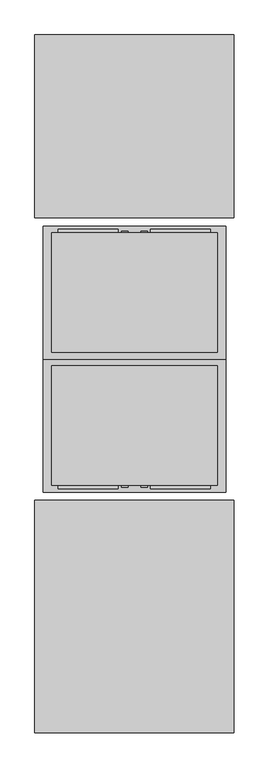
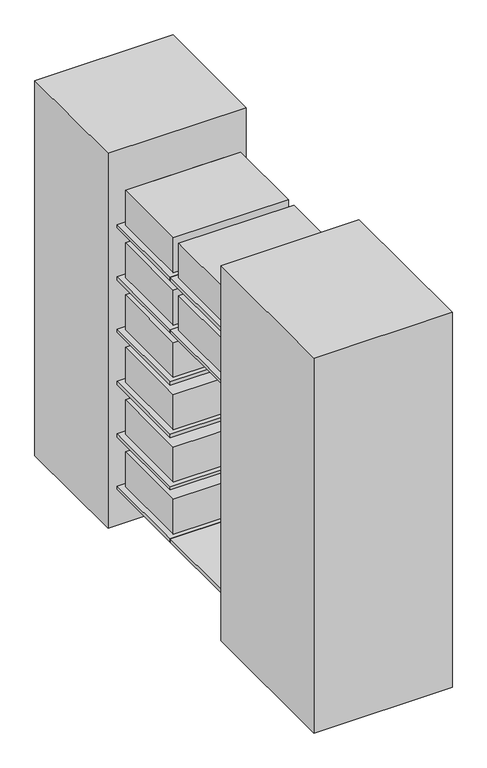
"""IFC4 building model written with IfcOpenShell, lengths in millimetres: furniture geometry, BIMHealth-Data_Acquisition_Cabinet_MRI-LOD2A-v1 : BIMHealth-Data_Acquisition_Cabinet_MRI-LOD2A-v1."""

from ifc_helpers import new_model, si_unit, point, frame, frame_2d, origin, origin_with_axes, place, context, project, spatial, polyline, circle_curve, trimmed, segment, composite_curve, outline, extrude, source, transform, mapped, element, save


def furniture_b9a21921(model_context):
    return source(origin(), model_context, "Body", "SweptSolid", [
        extrude(outline(polyline([(-300.0, 975.0), (300.0, 975.0), (300.0, 425.0), (-300.0, 425.0), (-300.0, 975.0)])), origin_with_axes(), (0.0, 0.0, 1.0), 1720.0),
        extrude(outline(polyline([(300.0, -425.0), (300.0, -1125.0), (-300.0, -1125.0), (-300.0, -425.0), (300.0, -425.0)])), origin_with_axes(), (0.0, 0.0, 1.0), 1720.0),
        extrude(outline(polyline([(275.0, 0.0), (-275.0, 0.0), (-275.0, 400.0), (275.0, 400.0), (275.0, 0.0)])), frame((0.0, 0.0, 185.0), z_axis=(0.0, 0.0, 1.0), x_axis=(1.0, 0.0, 0.0)), (0.0, 0.0, 1.0), 15.0),
        extrude(outline(composite_curve([segment(trimmed(circle_curve(frame_2d((1532.3398364, 29.2292543)), 10.0), [point((1532.3398364, 39.2292543))], [point((1532.3398364, 19.2292543))], False, "CARTESIAN"), True, "CONTINUOUS"), segment(trimmed(circle_curve(frame_2d((1532.3398364, 29.2292543)), 10.0), [point((1532.3398364, 19.2292543))], [point((1532.3398364, 39.2292543))], False, "CARTESIAN"), True, "CONTINUOUS")], self_intersect=False)), frame((0.0, 380.0, 0.0), z_axis=(0.0, 1.0, 0.0), x_axis=(0.0, 0.0, 1.0)), (0.0, 0.0, 1.0), 5.0),
        extrude(outline(composite_curve([segment(trimmed(circle_curve(frame_2d((1481.3182848, 29.2292543)), 10.0), [point((1481.3182848, 39.2292543))], [point((1481.3182848, 19.2292543))], False, "CARTESIAN"), True, "CONTINUOUS"), segment(trimmed(circle_curve(frame_2d((1481.3182848, 29.2292543)), 10.0), [point((1481.3182848, 19.2292543))], [point((1481.3182848, 39.2292543))], False, "CARTESIAN"), True, "CONTINUOUS")], self_intersect=False)), frame((0.0, 380.0, 0.0), z_axis=(0.0, 1.0, 0.0), x_axis=(0.0, 0.0, 1.0)), (0.0, 0.0, 1.0), 5.0),
        extrude(outline(composite_curve([segment(trimmed(circle_curve(frame_2d((1430.2967331, 29.2292543)), 10.0), [point((1430.2967331, 39.2292543))], [point((1430.2967331, 19.2292543))], False, "CARTESIAN"), True, "CONTINUOUS"), segment(trimmed(circle_curve(frame_2d((1430.2967331, 29.2292543)), 10.0), [point((1430.2967331, 19.2292543))], [point((1430.2967331, 39.2292543))], False, "CARTESIAN"), True, "CONTINUOUS")], self_intersect=False)), frame((0.0, 380.0, 0.0), z_axis=(0.0, 1.0, 0.0), x_axis=(0.0, 0.0, 1.0)), (0.0, 0.0, 1.0), 5.0),
        extrude(outline(composite_curve([segment(trimmed(circle_curve(frame_2d((1532.3398364, -29.2292543)), 10.0), [point((1532.3398364, -39.2292543))], [point((1532.3398364, -19.2292543))], False, "CARTESIAN"), True, "CONTINUOUS"), segment(trimmed(circle_curve(frame_2d((1532.3398364, -29.2292543)), 10.0), [point((1532.3398364, -19.2292543))], [point((1532.3398364, -39.2292543))], False, "CARTESIAN"), True, "CONTINUOUS")], self_intersect=False)), frame((0.0, 380.0, 0.0), z_axis=(0.0, 1.0, 0.0), x_axis=(0.0, 0.0, 1.0)), (0.0, 0.0, 1.0), 5.0),
        extrude(outline(composite_curve([segment(trimmed(circle_curve(frame_2d((1481.3182848, -29.2292543)), 10.0), [point((1481.3182848, -39.2292543))], [point((1481.3182848, -19.2292543))], False, "CARTESIAN"), True, "CONTINUOUS"), segment(trimmed(circle_curve(frame_2d((1481.3182848, -29.2292543)), 10.0), [point((1481.3182848, -19.2292543))], [point((1481.3182848, -39.2292543))], False, "CARTESIAN"), True, "CONTINUOUS")], self_intersect=False)), frame((0.0, 380.0, 0.0), z_axis=(0.0, 1.0, 0.0), x_axis=(0.0, 0.0, 1.0)), (0.0, 0.0, 1.0), 5.0),
        extrude(outline(composite_curve([segment(trimmed(circle_curve(frame_2d((1430.2967331, -29.2292543)), 10.0), [point((1430.2967331, -39.2292543))], [point((1430.2967331, -19.2292543))], False, "CARTESIAN"), True, "CONTINUOUS"), segment(trimmed(circle_curve(frame_2d((1430.2967331, -29.2292543)), 10.0), [point((1430.2967331, -19.2292543))], [point((1430.2967331, -39.2292543))], False, "CARTESIAN"), True, "CONTINUOUS")], self_intersect=False)), frame((0.0, 380.0, 0.0), z_axis=(0.0, 1.0, 0.0), x_axis=(0.0, 0.0, 1.0)), (0.0, 0.0, 1.0), 5.0),
        extrude(outline(polyline([(-229.2292543, 390.0), (-49.2292543, 390.0), (-49.2292543, 380.0), (-229.2292543, 380.0), (-229.2292543, 390.0)])), frame((0.0, 0.0, 1512.3398364), z_axis=(0.0, 0.0, 1.0), x_axis=(1.0, 0.0, 0.0)), (0.0, 0.0, 1.0), 40.0),
        extrude(outline(polyline([(-229.2292543, 390.0), (-49.2292543, 390.0), (-49.2292543, 380.0), (-229.2292543, 380.0), (-229.2292543, 390.0)])), frame((0.0, 0.0, 1461.3182848), z_axis=(0.0, 0.0, 1.0), x_axis=(1.0, 0.0, 0.0)), (0.0, 0.0, 1.0), 40.0),
        extrude(outline(polyline([(-229.2292543, 390.0), (-49.2292543, 390.0), (-49.2292543, 380.0), (-229.2292543, 380.0), (-229.2292543, 390.0)])), frame((0.0, 0.0, 1410.2967331), z_axis=(0.0, 0.0, 1.0), x_axis=(1.0, 0.0, 0.0)), (0.0, 0.0, 1.0), 40.0),
        extrude(outline(polyline([(49.2292543, 390.0), (229.2292543, 390.0), (229.2292543, 380.0), (49.2292543, 380.0), (49.2292543, 390.0)])), frame((0.0, 0.0, 1512.3398364), z_axis=(0.0, 0.0, 1.0), x_axis=(1.0, 0.0, 0.0)), (0.0, 0.0, 1.0), 40.0),
        extrude(outline(polyline([(49.2292543, 390.0), (229.2292543, 390.0), (229.2292543, 380.0), (49.2292543, 380.0), (49.2292543, 390.0)])), frame((0.0, 0.0, 1461.3182848), z_axis=(0.0, 0.0, 1.0), x_axis=(1.0, 0.0, 0.0)), (0.0, 0.0, 1.0), 40.0),
        extrude(outline(polyline([(49.2292543, 390.0), (229.2292543, 390.0), (229.2292543, 380.0), (49.2292543, 380.0), (49.2292543, 390.0)])), frame((0.0, 0.0, 1410.2967331), z_axis=(0.0, 0.0, 1.0), x_axis=(1.0, 0.0, 0.0)), (0.0, 0.0, 1.0), 40.0),
        extrude(outline(polyline([(250.0, 380.0), (250.0, 20.0), (-250.0, 20.0), (-250.0, 380.0), (250.0, 380.0)])), frame((0.0, 0.0, 1400.0), z_axis=(0.0, 0.0, 1.0), x_axis=(1.0, 0.0, 0.0)), (0.0, 0.0, 1.0), 160.0),
        extrude(outline(polyline([(275.0, 0.0), (-275.0, 0.0), (-275.0, 400.0), (275.0, 400.0), (275.0, 0.0)])), frame((0.0, 0.0, 1385.0), z_axis=(0.0, 0.0, 1.0), x_axis=(1.0, 0.0, 0.0)), (0.0, 0.0, 1.0), 15.0),
        extrude(outline(composite_curve([segment(trimmed(circle_curve(frame_2d((1292.3398364, 29.2292543)), 10.0), [point((1292.3398364, 39.2292543))], [point((1292.3398364, 19.2292543))], False, "CARTESIAN"), True, "CONTINUOUS"), segment(trimmed(circle_curve(frame_2d((1292.3398364, 29.2292543)), 10.0), [point((1292.3398364, 19.2292543))], [point((1292.3398364, 39.2292543))], False, "CARTESIAN"), True, "CONTINUOUS")], self_intersect=False)), frame((0.0, 380.0, 0.0), z_axis=(0.0, 1.0, 0.0), x_axis=(0.0, 0.0, 1.0)), (0.0, 0.0, 1.0), 5.0),
        extrude(outline(composite_curve([segment(trimmed(circle_curve(frame_2d((1241.3182848, 29.2292543)), 10.0), [point((1241.3182848, 39.2292543))], [point((1241.3182848, 19.2292543))], False, "CARTESIAN"), True, "CONTINUOUS"), segment(trimmed(circle_curve(frame_2d((1241.3182848, 29.2292543)), 10.0), [point((1241.3182848, 19.2292543))], [point((1241.3182848, 39.2292543))], False, "CARTESIAN"), True, "CONTINUOUS")], self_intersect=False)), frame((0.0, 380.0, 0.0), z_axis=(0.0, 1.0, 0.0), x_axis=(0.0, 0.0, 1.0)), (0.0, 0.0, 1.0), 5.0),
        extrude(outline(composite_curve([segment(trimmed(circle_curve(frame_2d((1190.2967331, 29.2292543)), 10.0), [point((1190.2967331, 39.2292543))], [point((1190.2967331, 19.2292543))], False, "CARTESIAN"), True, "CONTINUOUS"), segment(trimmed(circle_curve(frame_2d((1190.2967331, 29.2292543)), 10.0), [point((1190.2967331, 19.2292543))], [point((1190.2967331, 39.2292543))], False, "CARTESIAN"), True, "CONTINUOUS")], self_intersect=False)), frame((0.0, 380.0, 0.0), z_axis=(0.0, 1.0, 0.0), x_axis=(0.0, 0.0, 1.0)), (0.0, 0.0, 1.0), 5.0),
        extrude(outline(composite_curve([segment(trimmed(circle_curve(frame_2d((1292.3398364, -29.2292543)), 10.0), [point((1292.3398364, -39.2292543))], [point((1292.3398364, -19.2292543))], False, "CARTESIAN"), True, "CONTINUOUS"), segment(trimmed(circle_curve(frame_2d((1292.3398364, -29.2292543)), 10.0), [point((1292.3398364, -19.2292543))], [point((1292.3398364, -39.2292543))], False, "CARTESIAN"), True, "CONTINUOUS")], self_intersect=False)), frame((0.0, 380.0, 0.0), z_axis=(0.0, 1.0, 0.0), x_axis=(0.0, 0.0, 1.0)), (0.0, 0.0, 1.0), 5.0),
        extrude(outline(composite_curve([segment(trimmed(circle_curve(frame_2d((1241.3182848, -29.2292543)), 10.0), [point((1241.3182848, -39.2292543))], [point((1241.3182848, -19.2292543))], False, "CARTESIAN"), True, "CONTINUOUS"), segment(trimmed(circle_curve(frame_2d((1241.3182848, -29.2292543)), 10.0), [point((1241.3182848, -19.2292543))], [point((1241.3182848, -39.2292543))], False, "CARTESIAN"), True, "CONTINUOUS")], self_intersect=False)), frame((0.0, 380.0, 0.0), z_axis=(0.0, 1.0, 0.0), x_axis=(0.0, 0.0, 1.0)), (0.0, 0.0, 1.0), 5.0),
        extrude(outline(composite_curve([segment(trimmed(circle_curve(frame_2d((1190.2967331, -29.2292543)), 10.0), [point((1190.2967331, -39.2292543))], [point((1190.2967331, -19.2292543))], False, "CARTESIAN"), True, "CONTINUOUS"), segment(trimmed(circle_curve(frame_2d((1190.2967331, -29.2292543)), 10.0), [point((1190.2967331, -19.2292543))], [point((1190.2967331, -39.2292543))], False, "CARTESIAN"), True, "CONTINUOUS")], self_intersect=False)), frame((0.0, 380.0, 0.0), z_axis=(0.0, 1.0, 0.0), x_axis=(0.0, 0.0, 1.0)), (0.0, 0.0, 1.0), 5.0),
        extrude(outline(polyline([(-229.2292543, 390.0), (-49.2292543, 390.0), (-49.2292543, 380.0), (-229.2292543, 380.0), (-229.2292543, 390.0)])), frame((0.0, 0.0, 1272.3398364), z_axis=(0.0, 0.0, 1.0), x_axis=(1.0, 0.0, 0.0)), (0.0, 0.0, 1.0), 40.0),
        extrude(outline(polyline([(-229.2292543, 390.0), (-49.2292543, 390.0), (-49.2292543, 380.0), (-229.2292543, 380.0), (-229.2292543, 390.0)])), frame((0.0, 0.0, 1221.3182848), z_axis=(0.0, 0.0, 1.0), x_axis=(1.0, 0.0, 0.0)), (0.0, 0.0, 1.0), 40.0),
        extrude(outline(polyline([(-229.2292543, 390.0), (-49.2292543, 390.0), (-49.2292543, 380.0), (-229.2292543, 380.0), (-229.2292543, 390.0)])), frame((0.0, 0.0, 1170.2967331), z_axis=(0.0, 0.0, 1.0), x_axis=(1.0, 0.0, 0.0)), (0.0, 0.0, 1.0), 40.0),
        extrude(outline(polyline([(49.2292543, 390.0), (229.2292543, 390.0), (229.2292543, 380.0), (49.2292543, 380.0), (49.2292543, 390.0)])), frame((0.0, 0.0, 1272.3398364), z_axis=(0.0, 0.0, 1.0), x_axis=(1.0, 0.0, 0.0)), (0.0, 0.0, 1.0), 40.0),
        extrude(outline(polyline([(49.2292543, 390.0), (229.2292543, 390.0), (229.2292543, 380.0), (49.2292543, 380.0), (49.2292543, 390.0)])), frame((0.0, 0.0, 1221.3182848), z_axis=(0.0, 0.0, 1.0), x_axis=(1.0, 0.0, 0.0)), (0.0, 0.0, 1.0), 40.0),
        extrude(outline(polyline([(49.2292543, 390.0), (229.2292543, 390.0), (229.2292543, 380.0), (49.2292543, 380.0), (49.2292543, 390.0)])), frame((0.0, 0.0, 1170.2967331), z_axis=(0.0, 0.0, 1.0), x_axis=(1.0, 0.0, 0.0)), (0.0, 0.0, 1.0), 40.0),
        extrude(outline(polyline([(250.0, 380.0), (250.0, 20.0), (-250.0, 20.0), (-250.0, 380.0), (250.0, 380.0)])), frame((0.0, 0.0, 1160.0), z_axis=(0.0, 0.0, 1.0), x_axis=(1.0, 0.0, 0.0)), (0.0, 0.0, 1.0), 160.0),
        extrude(outline(polyline([(275.0, 0.0), (-275.0, 0.0), (-275.0, 400.0), (275.0, 400.0), (275.0, 0.0)])), frame((0.0, 0.0, 1145.0), z_axis=(0.0, 0.0, 1.0), x_axis=(1.0, 0.0, 0.0)), (0.0, 0.0, 1.0), 15.0),
        extrude(outline(composite_curve([segment(trimmed(circle_curve(frame_2d((1052.3398364, 29.2292543)), 10.0), [point((1052.3398364, 39.2292543))], [point((1052.3398364, 19.2292543))], False, "CARTESIAN"), True, "CONTINUOUS"), segment(trimmed(circle_curve(frame_2d((1052.3398364, 29.2292543)), 10.0), [point((1052.3398364, 19.2292543))], [point((1052.3398364, 39.2292543))], False, "CARTESIAN"), True, "CONTINUOUS")], self_intersect=False)), frame((0.0, 380.0, 0.0), z_axis=(0.0, 1.0, 0.0), x_axis=(0.0, 0.0, 1.0)), (0.0, 0.0, 1.0), 5.0),
        extrude(outline(composite_curve([segment(trimmed(circle_curve(frame_2d((1001.3182848, 29.2292543)), 10.0), [point((1001.3182848, 39.2292543))], [point((1001.3182848, 19.2292543))], False, "CARTESIAN"), True, "CONTINUOUS"), segment(trimmed(circle_curve(frame_2d((1001.3182848, 29.2292543)), 10.0), [point((1001.3182848, 19.2292543))], [point((1001.3182848, 39.2292543))], False, "CARTESIAN"), True, "CONTINUOUS")], self_intersect=False)), frame((0.0, 380.0, 0.0), z_axis=(0.0, 1.0, 0.0), x_axis=(0.0, 0.0, 1.0)), (0.0, 0.0, 1.0), 5.0),
        extrude(outline(composite_curve([segment(trimmed(circle_curve(frame_2d((950.2967331, 29.2292543)), 10.0), [point((950.2967331, 39.2292543))], [point((950.2967331, 19.2292543))], False, "CARTESIAN"), True, "CONTINUOUS"), segment(trimmed(circle_curve(frame_2d((950.2967331, 29.2292543)), 10.0), [point((950.2967331, 19.2292543))], [point((950.2967331, 39.2292543))], False, "CARTESIAN"), True, "CONTINUOUS")], self_intersect=False)), frame((0.0, 380.0, 0.0), z_axis=(0.0, 1.0, 0.0), x_axis=(0.0, 0.0, 1.0)), (0.0, 0.0, 1.0), 5.0),
        extrude(outline(composite_curve([segment(trimmed(circle_curve(frame_2d((1052.3398364, -29.2292543)), 10.0), [point((1052.3398364, -39.2292543))], [point((1052.3398364, -19.2292543))], False, "CARTESIAN"), True, "CONTINUOUS"), segment(trimmed(circle_curve(frame_2d((1052.3398364, -29.2292543)), 10.0), [point((1052.3398364, -19.2292543))], [point((1052.3398364, -39.2292543))], False, "CARTESIAN"), True, "CONTINUOUS")], self_intersect=False)), frame((0.0, 380.0, 0.0), z_axis=(0.0, 1.0, 0.0), x_axis=(0.0, 0.0, 1.0)), (0.0, 0.0, 1.0), 5.0),
        extrude(outline(composite_curve([segment(trimmed(circle_curve(frame_2d((1001.3182848, -29.2292543)), 10.0), [point((1001.3182848, -39.2292543))], [point((1001.3182848, -19.2292543))], False, "CARTESIAN"), True, "CONTINUOUS"), segment(trimmed(circle_curve(frame_2d((1001.3182848, -29.2292543)), 10.0), [point((1001.3182848, -19.2292543))], [point((1001.3182848, -39.2292543))], False, "CARTESIAN"), True, "CONTINUOUS")], self_intersect=False)), frame((0.0, 380.0, 0.0), z_axis=(0.0, 1.0, 0.0), x_axis=(0.0, 0.0, 1.0)), (0.0, 0.0, 1.0), 5.0),
        extrude(outline(composite_curve([segment(trimmed(circle_curve(frame_2d((950.2967331, -29.2292543)), 10.0), [point((950.2967331, -39.2292543))], [point((950.2967331, -19.2292543))], False, "CARTESIAN"), True, "CONTINUOUS"), segment(trimmed(circle_curve(frame_2d((950.2967331, -29.2292543)), 10.0), [point((950.2967331, -19.2292543))], [point((950.2967331, -39.2292543))], False, "CARTESIAN"), True, "CONTINUOUS")], self_intersect=False)), frame((0.0, 380.0, 0.0), z_axis=(0.0, 1.0, 0.0), x_axis=(0.0, 0.0, 1.0)), (0.0, 0.0, 1.0), 5.0),
        extrude(outline(polyline([(-229.2292543, 390.0), (-49.2292543, 390.0), (-49.2292543, 380.0), (-229.2292543, 380.0), (-229.2292543, 390.0)])), frame((0.0, 0.0, 1032.3398364), z_axis=(0.0, 0.0, 1.0), x_axis=(1.0, 0.0, 0.0)), (0.0, 0.0, 1.0), 40.0),
        extrude(outline(polyline([(-229.2292543, 390.0), (-49.2292543, 390.0), (-49.2292543, 380.0), (-229.2292543, 380.0), (-229.2292543, 390.0)])), frame((0.0, 0.0, 981.3182848), z_axis=(0.0, 0.0, 1.0), x_axis=(1.0, 0.0, 0.0)), (0.0, 0.0, 1.0), 40.0),
        extrude(outline(polyline([(-229.2292543, 390.0), (-49.2292543, 390.0), (-49.2292543, 380.0), (-229.2292543, 380.0), (-229.2292543, 390.0)])), frame((0.0, 0.0, 930.2967331), z_axis=(0.0, 0.0, 1.0), x_axis=(1.0, 0.0, 0.0)), (0.0, 0.0, 1.0), 40.0),
        extrude(outline(polyline([(49.2292543, 390.0), (229.2292543, 390.0), (229.2292543, 380.0), (49.2292543, 380.0), (49.2292543, 390.0)])), frame((0.0, 0.0, 1032.3398364), z_axis=(0.0, 0.0, 1.0), x_axis=(1.0, 0.0, 0.0)), (0.0, 0.0, 1.0), 40.0),
        extrude(outline(polyline([(49.2292543, 390.0), (229.2292543, 390.0), (229.2292543, 380.0), (49.2292543, 380.0), (49.2292543, 390.0)])), frame((0.0, 0.0, 981.3182848), z_axis=(0.0, 0.0, 1.0), x_axis=(1.0, 0.0, 0.0)), (0.0, 0.0, 1.0), 40.0),
        extrude(outline(polyline([(49.2292543, 390.0), (229.2292543, 390.0), (229.2292543, 380.0), (49.2292543, 380.0), (49.2292543, 390.0)])), frame((0.0, 0.0, 930.2967331), z_axis=(0.0, 0.0, 1.0), x_axis=(1.0, 0.0, 0.0)), (0.0, 0.0, 1.0), 40.0),
        extrude(outline(polyline([(250.0, 380.0), (250.0, 20.0), (-250.0, 20.0), (-250.0, 380.0), (250.0, 380.0)])), frame((0.0, 0.0, 920.0), z_axis=(0.0, 0.0, 1.0), x_axis=(1.0, 0.0, 0.0)), (0.0, 0.0, 1.0), 160.0),
        extrude(outline(polyline([(275.0, 0.0), (-275.0, 0.0), (-275.0, 400.0), (275.0, 400.0), (275.0, 0.0)])), frame((0.0, 0.0, 905.0), z_axis=(0.0, 0.0, 1.0), x_axis=(1.0, 0.0, 0.0)), (0.0, 0.0, 1.0), 15.0),
        extrude(outline(composite_curve([segment(trimmed(circle_curve(frame_2d((812.3398364, 29.2292543)), 10.0), [point((812.3398364, 39.2292543))], [point((812.3398364, 19.2292543))], False, "CARTESIAN"), True, "CONTINUOUS"), segment(trimmed(circle_curve(frame_2d((812.3398364, 29.2292543)), 10.0), [point((812.3398364, 19.2292543))], [point((812.3398364, 39.2292543))], False, "CARTESIAN"), True, "CONTINUOUS")], self_intersect=False)), frame((0.0, 380.0, 0.0), z_axis=(0.0, 1.0, 0.0), x_axis=(0.0, 0.0, 1.0)), (0.0, 0.0, 1.0), 5.0),
        extrude(outline(composite_curve([segment(trimmed(circle_curve(frame_2d((761.3182848, 29.2292543)), 10.0), [point((761.3182848, 39.2292543))], [point((761.3182848, 19.2292543))], False, "CARTESIAN"), True, "CONTINUOUS"), segment(trimmed(circle_curve(frame_2d((761.3182848, 29.2292543)), 10.0), [point((761.3182848, 19.2292543))], [point((761.3182848, 39.2292543))], False, "CARTESIAN"), True, "CONTINUOUS")], self_intersect=False)), frame((0.0, 380.0, 0.0), z_axis=(0.0, 1.0, 0.0), x_axis=(0.0, 0.0, 1.0)), (0.0, 0.0, 1.0), 5.0),
        extrude(outline(composite_curve([segment(trimmed(circle_curve(frame_2d((710.2967331, 29.2292543)), 10.0), [point((710.2967331, 39.2292543))], [point((710.2967331, 19.2292543))], False, "CARTESIAN"), True, "CONTINUOUS"), segment(trimmed(circle_curve(frame_2d((710.2967331, 29.2292543)), 10.0), [point((710.2967331, 19.2292543))], [point((710.2967331, 39.2292543))], False, "CARTESIAN"), True, "CONTINUOUS")], self_intersect=False)), frame((0.0, 380.0, 0.0), z_axis=(0.0, 1.0, 0.0), x_axis=(0.0, 0.0, 1.0)), (0.0, 0.0, 1.0), 5.0),
        extrude(outline(composite_curve([segment(trimmed(circle_curve(frame_2d((812.3398364, -29.2292543)), 10.0), [point((812.3398364, -39.2292543))], [point((812.3398364, -19.2292543))], False, "CARTESIAN"), True, "CONTINUOUS"), segment(trimmed(circle_curve(frame_2d((812.3398364, -29.2292543)), 10.0), [point((812.3398364, -19.2292543))], [point((812.3398364, -39.2292543))], False, "CARTESIAN"), True, "CONTINUOUS")], self_intersect=False)), frame((0.0, 380.0, 0.0), z_axis=(0.0, 1.0, 0.0), x_axis=(0.0, 0.0, 1.0)), (0.0, 0.0, 1.0), 5.0),
        extrude(outline(composite_curve([segment(trimmed(circle_curve(frame_2d((761.3182848, -29.2292543)), 10.0), [point((761.3182848, -39.2292543))], [point((761.3182848, -19.2292543))], False, "CARTESIAN"), True, "CONTINUOUS"), segment(trimmed(circle_curve(frame_2d((761.3182848, -29.2292543)), 10.0), [point((761.3182848, -19.2292543))], [point((761.3182848, -39.2292543))], False, "CARTESIAN"), True, "CONTINUOUS")], self_intersect=False)), frame((0.0, 380.0, 0.0), z_axis=(0.0, 1.0, 0.0), x_axis=(0.0, 0.0, 1.0)), (0.0, 0.0, 1.0), 5.0),
        extrude(outline(composite_curve([segment(trimmed(circle_curve(frame_2d((710.2967331, -29.2292543)), 10.0), [point((710.2967331, -39.2292543))], [point((710.2967331, -19.2292543))], False, "CARTESIAN"), True, "CONTINUOUS"), segment(trimmed(circle_curve(frame_2d((710.2967331, -29.2292543)), 10.0), [point((710.2967331, -19.2292543))], [point((710.2967331, -39.2292543))], False, "CARTESIAN"), True, "CONTINUOUS")], self_intersect=False)), frame((0.0, 380.0, 0.0), z_axis=(0.0, 1.0, 0.0), x_axis=(0.0, 0.0, 1.0)), (0.0, 0.0, 1.0), 5.0),
        extrude(outline(polyline([(-229.2292543, 390.0), (-49.2292543, 390.0), (-49.2292543, 380.0), (-229.2292543, 380.0), (-229.2292543, 390.0)])), frame((0.0, 0.0, 792.3398364), z_axis=(0.0, 0.0, 1.0), x_axis=(1.0, 0.0, 0.0)), (0.0, 0.0, 1.0), 40.0),
        extrude(outline(polyline([(-229.2292543, 390.0), (-49.2292543, 390.0), (-49.2292543, 380.0), (-229.2292543, 380.0), (-229.2292543, 390.0)])), frame((0.0, 0.0, 741.3182848), z_axis=(0.0, 0.0, 1.0), x_axis=(1.0, 0.0, 0.0)), (0.0, 0.0, 1.0), 40.0),
        extrude(outline(polyline([(-229.2292543, 390.0), (-49.2292543, 390.0), (-49.2292543, 380.0), (-229.2292543, 380.0), (-229.2292543, 390.0)])), frame((0.0, 0.0, 690.2967331), z_axis=(0.0, 0.0, 1.0), x_axis=(1.0, 0.0, 0.0)), (0.0, 0.0, 1.0), 40.0),
        extrude(outline(polyline([(49.2292543, 390.0), (229.2292543, 390.0), (229.2292543, 380.0), (49.2292543, 380.0), (49.2292543, 390.0)])), frame((0.0, 0.0, 792.3398364), z_axis=(0.0, 0.0, 1.0), x_axis=(1.0, 0.0, 0.0)), (0.0, 0.0, 1.0), 40.0),
        extrude(outline(polyline([(49.2292543, 390.0), (229.2292543, 390.0), (229.2292543, 380.0), (49.2292543, 380.0), (49.2292543, 390.0)])), frame((0.0, 0.0, 741.3182848), z_axis=(0.0, 0.0, 1.0), x_axis=(1.0, 0.0, 0.0)), (0.0, 0.0, 1.0), 40.0),
        extrude(outline(polyline([(49.2292543, 390.0), (229.2292543, 390.0), (229.2292543, 380.0), (49.2292543, 380.0), (49.2292543, 390.0)])), frame((0.0, 0.0, 690.2967331), z_axis=(0.0, 0.0, 1.0), x_axis=(1.0, 0.0, 0.0)), (0.0, 0.0, 1.0), 40.0),
        extrude(outline(polyline([(250.0, 380.0), (250.0, 20.0), (-250.0, 20.0), (-250.0, 380.0), (250.0, 380.0)])), frame((0.0, 0.0, 680.0), z_axis=(0.0, 0.0, 1.0), x_axis=(1.0, 0.0, 0.0)), (0.0, 0.0, 1.0), 160.0),
        extrude(outline(polyline([(275.0, 0.0), (-275.0, 0.0), (-275.0, 400.0), (275.0, 400.0), (275.0, 0.0)])), frame((0.0, 0.0, 665.0), z_axis=(0.0, 0.0, 1.0), x_axis=(1.0, 0.0, 0.0)), (0.0, 0.0, 1.0), 15.0),
        extrude(outline(composite_curve([segment(trimmed(circle_curve(frame_2d((332.3398364, 29.2292543)), 10.0), [point((332.3398364, 39.2292543))], [point((332.3398364, 19.2292543))], False, "CARTESIAN"), True, "CONTINUOUS"), segment(trimmed(circle_curve(frame_2d((332.3398364, 29.2292543)), 10.0), [point((332.3398364, 19.2292543))], [point((332.3398364, 39.2292543))], False, "CARTESIAN"), True, "CONTINUOUS")], self_intersect=False)), frame((0.0, 380.0, 0.0), z_axis=(0.0, 1.0, 0.0), x_axis=(0.0, 0.0, 1.0)), (0.0, 0.0, 1.0), 5.0),
        extrude(outline(composite_curve([segment(trimmed(circle_curve(frame_2d((281.3182848, 29.2292543)), 10.0), [point((281.3182848, 39.2292543))], [point((281.3182848, 19.2292543))], False, "CARTESIAN"), True, "CONTINUOUS"), segment(trimmed(circle_curve(frame_2d((281.3182848, 29.2292543)), 10.0), [point((281.3182848, 19.2292543))], [point((281.3182848, 39.2292543))], False, "CARTESIAN"), True, "CONTINUOUS")], self_intersect=False)), frame((0.0, 380.0, 0.0), z_axis=(0.0, 1.0, 0.0), x_axis=(0.0, 0.0, 1.0)), (0.0, 0.0, 1.0), 5.0),
        extrude(outline(composite_curve([segment(trimmed(circle_curve(frame_2d((230.2967331, 29.2292543)), 10.0), [point((230.2967331, 39.2292543))], [point((230.2967331, 19.2292543))], False, "CARTESIAN"), True, "CONTINUOUS"), segment(trimmed(circle_curve(frame_2d((230.2967331, 29.2292543)), 10.0), [point((230.2967331, 19.2292543))], [point((230.2967331, 39.2292543))], False, "CARTESIAN"), True, "CONTINUOUS")], self_intersect=False)), frame((0.0, 380.0, 0.0), z_axis=(0.0, 1.0, 0.0), x_axis=(0.0, 0.0, 1.0)), (0.0, 0.0, 1.0), 5.0),
        extrude(outline(composite_curve([segment(trimmed(circle_curve(frame_2d((332.3398364, -29.2292543)), 10.0), [point((332.3398364, -39.2292543))], [point((332.3398364, -19.2292543))], False, "CARTESIAN"), True, "CONTINUOUS"), segment(trimmed(circle_curve(frame_2d((332.3398364, -29.2292543)), 10.0), [point((332.3398364, -19.2292543))], [point((332.3398364, -39.2292543))], False, "CARTESIAN"), True, "CONTINUOUS")], self_intersect=False)), frame((0.0, 380.0, 0.0), z_axis=(0.0, 1.0, 0.0), x_axis=(0.0, 0.0, 1.0)), (0.0, 0.0, 1.0), 5.0),
        extrude(outline(composite_curve([segment(trimmed(circle_curve(frame_2d((281.3182848, -29.2292543)), 10.0), [point((281.3182848, -39.2292543))], [point((281.3182848, -19.2292543))], False, "CARTESIAN"), True, "CONTINUOUS"), segment(trimmed(circle_curve(frame_2d((281.3182848, -29.2292543)), 10.0), [point((281.3182848, -19.2292543))], [point((281.3182848, -39.2292543))], False, "CARTESIAN"), True, "CONTINUOUS")], self_intersect=False)), frame((0.0, 380.0, 0.0), z_axis=(0.0, 1.0, 0.0), x_axis=(0.0, 0.0, 1.0)), (0.0, 0.0, 1.0), 5.0),
        extrude(outline(composite_curve([segment(trimmed(circle_curve(frame_2d((230.2967331, -29.2292543)), 10.0), [point((230.2967331, -39.2292543))], [point((230.2967331, -19.2292543))], False, "CARTESIAN"), True, "CONTINUOUS"), segment(trimmed(circle_curve(frame_2d((230.2967331, -29.2292543)), 10.0), [point((230.2967331, -19.2292543))], [point((230.2967331, -39.2292543))], False, "CARTESIAN"), True, "CONTINUOUS")], self_intersect=False)), frame((0.0, 380.0, 0.0), z_axis=(0.0, 1.0, 0.0), x_axis=(0.0, 0.0, 1.0)), (0.0, 0.0, 1.0), 5.0),
        extrude(outline(polyline([(-229.2292543, 390.0), (-49.2292543, 390.0), (-49.2292543, 380.0), (-229.2292543, 380.0), (-229.2292543, 390.0)])), frame((0.0, 0.0, 312.3398364), z_axis=(0.0, 0.0, 1.0), x_axis=(1.0, 0.0, 0.0)), (0.0, 0.0, 1.0), 40.0),
        extrude(outline(polyline([(-229.2292543, 390.0), (-49.2292543, 390.0), (-49.2292543, 380.0), (-229.2292543, 380.0), (-229.2292543, 390.0)])), frame((0.0, 0.0, 261.3182848), z_axis=(0.0, 0.0, 1.0), x_axis=(1.0, 0.0, 0.0)), (0.0, 0.0, 1.0), 40.0),
        extrude(outline(polyline([(-229.2292543, 390.0), (-49.2292543, 390.0), (-49.2292543, 380.0), (-229.2292543, 380.0), (-229.2292543, 390.0)])), frame((0.0, 0.0, 210.2967331), z_axis=(0.0, 0.0, 1.0), x_axis=(1.0, 0.0, 0.0)), (0.0, 0.0, 1.0), 40.0),
        extrude(outline(polyline([(49.2292543, 390.0), (229.2292543, 390.0), (229.2292543, 380.0), (49.2292543, 380.0), (49.2292543, 390.0)])), frame((0.0, 0.0, 312.3398364), z_axis=(0.0, 0.0, 1.0), x_axis=(1.0, 0.0, 0.0)), (0.0, 0.0, 1.0), 40.0),
        extrude(outline(polyline([(49.2292543, 390.0), (229.2292543, 390.0), (229.2292543, 380.0), (49.2292543, 380.0), (49.2292543, 390.0)])), frame((0.0, 0.0, 261.3182848), z_axis=(0.0, 0.0, 1.0), x_axis=(1.0, 0.0, 0.0)), (0.0, 0.0, 1.0), 40.0),
        extrude(outline(polyline([(49.2292543, 390.0), (229.2292543, 390.0), (229.2292543, 380.0), (49.2292543, 380.0), (49.2292543, 390.0)])), frame((0.0, 0.0, 210.2967331), z_axis=(0.0, 0.0, 1.0), x_axis=(1.0, 0.0, 0.0)), (0.0, 0.0, 1.0), 40.0),
        extrude(outline(polyline([(250.0, 380.0), (250.0, 20.0), (-250.0, 20.0), (-250.0, 380.0), (250.0, 380.0)])), frame((0.0, 0.0, 200.0), z_axis=(0.0, 0.0, 1.0), x_axis=(1.0, 0.0, 0.0)), (0.0, 0.0, 1.0), 160.0),
        extrude(outline(composite_curve([segment(trimmed(circle_curve(frame_2d((572.3398364, 29.2292543)), 10.0), [point((572.3398364, 39.2292543))], [point((572.3398364, 19.2292543))], False, "CARTESIAN"), True, "CONTINUOUS"), segment(trimmed(circle_curve(frame_2d((572.3398364, 29.2292543)), 10.0), [point((572.3398364, 19.2292543))], [point((572.3398364, 39.2292543))], False, "CARTESIAN"), True, "CONTINUOUS")], self_intersect=False)), frame((0.0, 380.0, 0.0), z_axis=(0.0, 1.0, 0.0), x_axis=(0.0, 0.0, 1.0)), (0.0, 0.0, 1.0), 5.0),
        extrude(outline(composite_curve([segment(trimmed(circle_curve(frame_2d((521.3182848, 29.2292543)), 10.0), [point((521.3182848, 39.2292543))], [point((521.3182848, 19.2292543))], False, "CARTESIAN"), True, "CONTINUOUS"), segment(trimmed(circle_curve(frame_2d((521.3182848, 29.2292543)), 10.0), [point((521.3182848, 19.2292543))], [point((521.3182848, 39.2292543))], False, "CARTESIAN"), True, "CONTINUOUS")], self_intersect=False)), frame((0.0, 380.0, 0.0), z_axis=(0.0, 1.0, 0.0), x_axis=(0.0, 0.0, 1.0)), (0.0, 0.0, 1.0), 5.0),
        extrude(outline(composite_curve([segment(trimmed(circle_curve(frame_2d((470.2967331, 29.2292543)), 10.0), [point((470.2967331, 39.2292543))], [point((470.2967331, 19.2292543))], False, "CARTESIAN"), True, "CONTINUOUS"), segment(trimmed(circle_curve(frame_2d((470.2967331, 29.2292543)), 10.0), [point((470.2967331, 19.2292543))], [point((470.2967331, 39.2292543))], False, "CARTESIAN"), True, "CONTINUOUS")], self_intersect=False)), frame((0.0, 380.0, 0.0), z_axis=(0.0, 1.0, 0.0), x_axis=(0.0, 0.0, 1.0)), (0.0, 0.0, 1.0), 5.0),
        extrude(outline(composite_curve([segment(trimmed(circle_curve(frame_2d((572.3398364, -29.2292543)), 10.0), [point((572.3398364, -39.2292543))], [point((572.3398364, -19.2292543))], False, "CARTESIAN"), True, "CONTINUOUS"), segment(trimmed(circle_curve(frame_2d((572.3398364, -29.2292543)), 10.0), [point((572.3398364, -19.2292543))], [point((572.3398364, -39.2292543))], False, "CARTESIAN"), True, "CONTINUOUS")], self_intersect=False)), frame((0.0, 380.0, 0.0), z_axis=(0.0, 1.0, 0.0), x_axis=(0.0, 0.0, 1.0)), (0.0, 0.0, 1.0), 5.0),
        extrude(outline(composite_curve([segment(trimmed(circle_curve(frame_2d((521.3182848, -29.2292543)), 10.0), [point((521.3182848, -39.2292543))], [point((521.3182848, -19.2292543))], False, "CARTESIAN"), True, "CONTINUOUS"), segment(trimmed(circle_curve(frame_2d((521.3182848, -29.2292543)), 10.0), [point((521.3182848, -19.2292543))], [point((521.3182848, -39.2292543))], False, "CARTESIAN"), True, "CONTINUOUS")], self_intersect=False)), frame((0.0, 380.0, 0.0), z_axis=(0.0, 1.0, 0.0), x_axis=(0.0, 0.0, 1.0)), (0.0, 0.0, 1.0), 5.0),
        extrude(outline(composite_curve([segment(trimmed(circle_curve(frame_2d((470.2967331, -29.2292543)), 10.0), [point((470.2967331, -39.2292543))], [point((470.2967331, -19.2292543))], False, "CARTESIAN"), True, "CONTINUOUS"), segment(trimmed(circle_curve(frame_2d((470.2967331, -29.2292543)), 10.0), [point((470.2967331, -19.2292543))], [point((470.2967331, -39.2292543))], False, "CARTESIAN"), True, "CONTINUOUS")], self_intersect=False)), frame((0.0, 380.0, 0.0), z_axis=(0.0, 1.0, 0.0), x_axis=(0.0, 0.0, 1.0)), (0.0, 0.0, 1.0), 5.0),
        extrude(outline(polyline([(-229.2292543, 390.0), (-49.2292543, 390.0), (-49.2292543, 380.0), (-229.2292543, 380.0), (-229.2292543, 390.0)])), frame((0.0, 0.0, 552.3398364), z_axis=(0.0, 0.0, 1.0), x_axis=(1.0, 0.0, 0.0)), (0.0, 0.0, 1.0), 40.0),
        extrude(outline(polyline([(-229.2292543, 390.0), (-49.2292543, 390.0), (-49.2292543, 380.0), (-229.2292543, 380.0), (-229.2292543, 390.0)])), frame((0.0, 0.0, 501.3182848), z_axis=(0.0, 0.0, 1.0), x_axis=(1.0, 0.0, 0.0)), (0.0, 0.0, 1.0), 40.0),
        extrude(outline(polyline([(-229.2292543, 390.0), (-49.2292543, 390.0), (-49.2292543, 380.0), (-229.2292543, 380.0), (-229.2292543, 390.0)])), frame((0.0, 0.0, 450.2967331), z_axis=(0.0, 0.0, 1.0), x_axis=(1.0, 0.0, 0.0)), (0.0, 0.0, 1.0), 40.0),
        extrude(outline(polyline([(49.2292543, 390.0), (229.2292543, 390.0), (229.2292543, 380.0), (49.2292543, 380.0), (49.2292543, 390.0)])), frame((0.0, 0.0, 552.3398364), z_axis=(0.0, 0.0, 1.0), x_axis=(1.0, 0.0, 0.0)), (0.0, 0.0, 1.0), 40.0),
        extrude(outline(polyline([(49.2292543, 390.0), (229.2292543, 390.0), (229.2292543, 380.0), (49.2292543, 380.0), (49.2292543, 390.0)])), frame((0.0, 0.0, 501.3182848), z_axis=(0.0, 0.0, 1.0), x_axis=(1.0, 0.0, 0.0)), (0.0, 0.0, 1.0), 40.0),
        extrude(outline(polyline([(49.2292543, 390.0), (229.2292543, 390.0), (229.2292543, 380.0), (49.2292543, 380.0), (49.2292543, 390.0)])), frame((0.0, 0.0, 450.2967331), z_axis=(0.0, 0.0, 1.0), x_axis=(1.0, 0.0, 0.0)), (0.0, 0.0, 1.0), 40.0),
        extrude(outline(polyline([(250.0, 380.0), (250.0, 20.0), (-250.0, 20.0), (-250.0, 380.0), (250.0, 380.0)])), frame((0.0, 0.0, 440.0), z_axis=(0.0, 0.0, 1.0), x_axis=(1.0, 0.0, 0.0)), (0.0, 0.0, 1.0), 160.0),
        extrude(outline(polyline([(275.0, 0.0), (-275.0, 0.0), (-275.0, 400.0), (275.0, 400.0), (275.0, 0.0)])), frame((0.0, 0.0, 425.0), z_axis=(0.0, 0.0, 1.0), x_axis=(1.0, 0.0, 0.0)), (0.0, 0.0, 1.0), 15.0),
        extrude(outline(polyline([(275.0, 0.0), (275.0, -400.0), (-275.0, -400.0), (-275.0, 0.0), (275.0, 0.0)])), frame((0.0, 0.0, 185.0), z_axis=(0.0, 0.0, 1.0), x_axis=(1.0, 0.0, 0.0)), (0.0, 0.0, 1.0), 15.0),
        extrude(outline(composite_curve([segment(trimmed(circle_curve(frame_2d((1532.3398364, 29.2292543)), 10.0), [point((1532.3398364, 39.2292543))], [point((1532.3398364, 19.2292543))], False, "CARTESIAN"), True, "CONTINUOUS"), segment(trimmed(circle_curve(frame_2d((1532.3398364, 29.2292543)), 10.0), [point((1532.3398364, 19.2292543))], [point((1532.3398364, 39.2292543))], False, "CARTESIAN"), True, "CONTINUOUS")], self_intersect=False)), frame((0.0, -385.0, 0.0), z_axis=(0.0, 1.0, 0.0), x_axis=(0.0, 0.0, 1.0)), (0.0, 0.0, 1.0), 5.0),
        extrude(outline(composite_curve([segment(trimmed(circle_curve(frame_2d((1481.3182848, 29.2292543)), 10.0), [point((1481.3182848, 39.2292543))], [point((1481.3182848, 19.2292543))], False, "CARTESIAN"), True, "CONTINUOUS"), segment(trimmed(circle_curve(frame_2d((1481.3182848, 29.2292543)), 10.0), [point((1481.3182848, 19.2292543))], [point((1481.3182848, 39.2292543))], False, "CARTESIAN"), True, "CONTINUOUS")], self_intersect=False)), frame((0.0, -385.0, 0.0), z_axis=(0.0, 1.0, 0.0), x_axis=(0.0, 0.0, 1.0)), (0.0, 0.0, 1.0), 5.0),
        extrude(outline(composite_curve([segment(trimmed(circle_curve(frame_2d((1430.2967331, 29.2292543)), 10.0), [point((1430.2967331, 39.2292543))], [point((1430.2967331, 19.2292543))], False, "CARTESIAN"), True, "CONTINUOUS"), segment(trimmed(circle_curve(frame_2d((1430.2967331, 29.2292543)), 10.0), [point((1430.2967331, 19.2292543))], [point((1430.2967331, 39.2292543))], False, "CARTESIAN"), True, "CONTINUOUS")], self_intersect=False)), frame((0.0, -385.0, 0.0), z_axis=(0.0, 1.0, 0.0), x_axis=(0.0, 0.0, 1.0)), (0.0, 0.0, 1.0), 5.0),
        extrude(outline(composite_curve([segment(trimmed(circle_curve(frame_2d((1532.3398364, -29.2292543)), 10.0), [point((1532.3398364, -39.2292543))], [point((1532.3398364, -19.2292543))], False, "CARTESIAN"), True, "CONTINUOUS"), segment(trimmed(circle_curve(frame_2d((1532.3398364, -29.2292543)), 10.0), [point((1532.3398364, -19.2292543))], [point((1532.3398364, -39.2292543))], False, "CARTESIAN"), True, "CONTINUOUS")], self_intersect=False)), frame((0.0, -385.0, 0.0), z_axis=(0.0, 1.0, 0.0), x_axis=(0.0, 0.0, 1.0)), (0.0, 0.0, 1.0), 5.0),
        extrude(outline(composite_curve([segment(trimmed(circle_curve(frame_2d((1481.3182848, -29.2292543)), 10.0), [point((1481.3182848, -39.2292543))], [point((1481.3182848, -19.2292543))], False, "CARTESIAN"), True, "CONTINUOUS"), segment(trimmed(circle_curve(frame_2d((1481.3182848, -29.2292543)), 10.0), [point((1481.3182848, -19.2292543))], [point((1481.3182848, -39.2292543))], False, "CARTESIAN"), True, "CONTINUOUS")], self_intersect=False)), frame((0.0, -385.0, 0.0), z_axis=(0.0, 1.0, 0.0), x_axis=(0.0, 0.0, 1.0)), (0.0, 0.0, 1.0), 5.0),
        extrude(outline(composite_curve([segment(trimmed(circle_curve(frame_2d((1430.2967331, -29.2292543)), 10.0), [point((1430.2967331, -39.2292543))], [point((1430.2967331, -19.2292543))], False, "CARTESIAN"), True, "CONTINUOUS"), segment(trimmed(circle_curve(frame_2d((1430.2967331, -29.2292543)), 10.0), [point((1430.2967331, -19.2292543))], [point((1430.2967331, -39.2292543))], False, "CARTESIAN"), True, "CONTINUOUS")], self_intersect=False)), frame((0.0, -385.0, 0.0), z_axis=(0.0, 1.0, 0.0), x_axis=(0.0, 0.0, 1.0)), (0.0, 0.0, 1.0), 5.0),
        extrude(outline(polyline([(-49.2292543, -390.0), (-229.2292543, -390.0), (-229.2292543, -380.0), (-49.2292543, -380.0), (-49.2292543, -390.0)])), frame((0.0, 0.0, 1512.3398364), z_axis=(0.0, 0.0, 1.0), x_axis=(1.0, 0.0, 0.0)), (0.0, 0.0, 1.0), 40.0),
        extrude(outline(polyline([(-49.2292543, -390.0), (-229.2292543, -390.0), (-229.2292543, -380.0), (-49.2292543, -380.0), (-49.2292543, -390.0)])), frame((0.0, 0.0, 1461.3182848), z_axis=(0.0, 0.0, 1.0), x_axis=(1.0, 0.0, 0.0)), (0.0, 0.0, 1.0), 40.0),
        extrude(outline(polyline([(-49.2292543, -390.0), (-229.2292543, -390.0), (-229.2292543, -380.0), (-49.2292543, -380.0), (-49.2292543, -390.0)])), frame((0.0, 0.0, 1410.2967331), z_axis=(0.0, 0.0, 1.0), x_axis=(1.0, 0.0, 0.0)), (0.0, 0.0, 1.0), 40.0),
        extrude(outline(polyline([(229.2292543, -390.0), (49.2292543, -390.0), (49.2292543, -380.0), (229.2292543, -380.0), (229.2292543, -390.0)])), frame((0.0, 0.0, 1512.3398364), z_axis=(0.0, 0.0, 1.0), x_axis=(1.0, 0.0, 0.0)), (0.0, 0.0, 1.0), 40.0),
        extrude(outline(polyline([(229.2292543, -390.0), (49.2292543, -390.0), (49.2292543, -380.0), (229.2292543, -380.0), (229.2292543, -390.0)])), frame((0.0, 0.0, 1461.3182848), z_axis=(0.0, 0.0, 1.0), x_axis=(1.0, 0.0, 0.0)), (0.0, 0.0, 1.0), 40.0),
        extrude(outline(polyline([(229.2292543, -390.0), (49.2292543, -390.0), (49.2292543, -380.0), (229.2292543, -380.0), (229.2292543, -390.0)])), frame((0.0, 0.0, 1410.2967331), z_axis=(0.0, 0.0, 1.0), x_axis=(1.0, 0.0, 0.0)), (0.0, 0.0, 1.0), 40.0),
        extrude(outline(polyline([(250.0, -20.0), (250.0, -380.0), (-250.0, -380.0), (-250.0, -20.0), (250.0, -20.0)])), frame((0.0, 0.0, 1400.0), z_axis=(0.0, 0.0, 1.0), x_axis=(1.0, 0.0, 0.0)), (0.0, 0.0, 1.0), 160.0),
        extrude(outline(polyline([(275.0, 0.0), (275.0, -400.0), (-275.0, -400.0), (-275.0, 0.0), (275.0, 0.0)])), frame((0.0, 0.0, 1385.0), z_axis=(0.0, 0.0, 1.0), x_axis=(1.0, 0.0, 0.0)), (0.0, 0.0, 1.0), 15.0),
        extrude(outline(composite_curve([segment(trimmed(circle_curve(frame_2d((1292.3398364, 29.2292543)), 10.0), [point((1292.3398364, 39.2292543))], [point((1292.3398364, 19.2292543))], False, "CARTESIAN"), True, "CONTINUOUS"), segment(trimmed(circle_curve(frame_2d((1292.3398364, 29.2292543)), 10.0), [point((1292.3398364, 19.2292543))], [point((1292.3398364, 39.2292543))], False, "CARTESIAN"), True, "CONTINUOUS")], self_intersect=False)), frame((0.0, -385.0, 0.0), z_axis=(0.0, 1.0, 0.0), x_axis=(0.0, 0.0, 1.0)), (0.0, 0.0, 1.0), 5.0),
        extrude(outline(composite_curve([segment(trimmed(circle_curve(frame_2d((1241.3182848, 29.2292543)), 10.0), [point((1241.3182848, 39.2292543))], [point((1241.3182848, 19.2292543))], False, "CARTESIAN"), True, "CONTINUOUS"), segment(trimmed(circle_curve(frame_2d((1241.3182848, 29.2292543)), 10.0), [point((1241.3182848, 19.2292543))], [point((1241.3182848, 39.2292543))], False, "CARTESIAN"), True, "CONTINUOUS")], self_intersect=False)), frame((0.0, -385.0, 0.0), z_axis=(0.0, 1.0, 0.0), x_axis=(0.0, 0.0, 1.0)), (0.0, 0.0, 1.0), 5.0),
        extrude(outline(composite_curve([segment(trimmed(circle_curve(frame_2d((1190.2967331, 29.2292543)), 10.0), [point((1190.2967331, 39.2292543))], [point((1190.2967331, 19.2292543))], False, "CARTESIAN"), True, "CONTINUOUS"), segment(trimmed(circle_curve(frame_2d((1190.2967331, 29.2292543)), 10.0), [point((1190.2967331, 19.2292543))], [point((1190.2967331, 39.2292543))], False, "CARTESIAN"), True, "CONTINUOUS")], self_intersect=False)), frame((0.0, -385.0, 0.0), z_axis=(0.0, 1.0, 0.0), x_axis=(0.0, 0.0, 1.0)), (0.0, 0.0, 1.0), 5.0),
        extrude(outline(composite_curve([segment(trimmed(circle_curve(frame_2d((1292.3398364, -29.2292543)), 10.0), [point((1292.3398364, -39.2292543))], [point((1292.3398364, -19.2292543))], False, "CARTESIAN"), True, "CONTINUOUS"), segment(trimmed(circle_curve(frame_2d((1292.3398364, -29.2292543)), 10.0), [point((1292.3398364, -19.2292543))], [point((1292.3398364, -39.2292543))], False, "CARTESIAN"), True, "CONTINUOUS")], self_intersect=False)), frame((0.0, -385.0, 0.0), z_axis=(0.0, 1.0, 0.0), x_axis=(0.0, 0.0, 1.0)), (0.0, 0.0, 1.0), 5.0),
        extrude(outline(composite_curve([segment(trimmed(circle_curve(frame_2d((1241.3182848, -29.2292543)), 10.0), [point((1241.3182848, -39.2292543))], [point((1241.3182848, -19.2292543))], False, "CARTESIAN"), True, "CONTINUOUS"), segment(trimmed(circle_curve(frame_2d((1241.3182848, -29.2292543)), 10.0), [point((1241.3182848, -19.2292543))], [point((1241.3182848, -39.2292543))], False, "CARTESIAN"), True, "CONTINUOUS")], self_intersect=False)), frame((0.0, -385.0, 0.0), z_axis=(0.0, 1.0, 0.0), x_axis=(0.0, 0.0, 1.0)), (0.0, 0.0, 1.0), 5.0),
        extrude(outline(composite_curve([segment(trimmed(circle_curve(frame_2d((1190.2967331, -29.2292543)), 10.0), [point((1190.2967331, -39.2292543))], [point((1190.2967331, -19.2292543))], False, "CARTESIAN"), True, "CONTINUOUS"), segment(trimmed(circle_curve(frame_2d((1190.2967331, -29.2292543)), 10.0), [point((1190.2967331, -19.2292543))], [point((1190.2967331, -39.2292543))], False, "CARTESIAN"), True, "CONTINUOUS")], self_intersect=False)), frame((0.0, -385.0, 0.0), z_axis=(0.0, 1.0, 0.0), x_axis=(0.0, 0.0, 1.0)), (0.0, 0.0, 1.0), 5.0),
        extrude(outline(polyline([(-49.2292543, -390.0), (-229.2292543, -390.0), (-229.2292543, -380.0), (-49.2292543, -380.0), (-49.2292543, -390.0)])), frame((0.0, 0.0, 1272.3398364), z_axis=(0.0, 0.0, 1.0), x_axis=(1.0, 0.0, 0.0)), (0.0, 0.0, 1.0), 40.0),
        extrude(outline(polyline([(-49.2292543, -390.0), (-229.2292543, -390.0), (-229.2292543, -380.0), (-49.2292543, -380.0), (-49.2292543, -390.0)])), frame((0.0, 0.0, 1221.3182848), z_axis=(0.0, 0.0, 1.0), x_axis=(1.0, 0.0, 0.0)), (0.0, 0.0, 1.0), 40.0),
        extrude(outline(polyline([(-49.2292543, -390.0), (-229.2292543, -390.0), (-229.2292543, -380.0), (-49.2292543, -380.0), (-49.2292543, -390.0)])), frame((0.0, 0.0, 1170.2967331), z_axis=(0.0, 0.0, 1.0), x_axis=(1.0, 0.0, 0.0)), (0.0, 0.0, 1.0), 40.0),
        extrude(outline(polyline([(229.2292543, -390.0), (49.2292543, -390.0), (49.2292543, -380.0), (229.2292543, -380.0), (229.2292543, -390.0)])), frame((0.0, 0.0, 1272.3398364), z_axis=(0.0, 0.0, 1.0), x_axis=(1.0, 0.0, 0.0)), (0.0, 0.0, 1.0), 40.0),
        extrude(outline(polyline([(229.2292543, -390.0), (49.2292543, -390.0), (49.2292543, -380.0), (229.2292543, -380.0), (229.2292543, -390.0)])), frame((0.0, 0.0, 1221.3182848), z_axis=(0.0, 0.0, 1.0), x_axis=(1.0, 0.0, 0.0)), (0.0, 0.0, 1.0), 40.0),
        extrude(outline(polyline([(229.2292543, -390.0), (49.2292543, -390.0), (49.2292543, -380.0), (229.2292543, -380.0), (229.2292543, -390.0)])), frame((0.0, 0.0, 1170.2967331), z_axis=(0.0, 0.0, 1.0), x_axis=(1.0, 0.0, 0.0)), (0.0, 0.0, 1.0), 40.0),
        extrude(outline(polyline([(250.0, -20.0), (250.0, -380.0), (-250.0, -380.0), (-250.0, -20.0), (250.0, -20.0)])), frame((0.0, 0.0, 1160.0), z_axis=(0.0, 0.0, 1.0), x_axis=(1.0, 0.0, 0.0)), (0.0, 0.0, 1.0), 160.0),
        extrude(outline(polyline([(275.0, 0.0), (275.0, -400.0), (-275.0, -400.0), (-275.0, 0.0), (275.0, 0.0)])), frame((0.0, 0.0, 1145.0), z_axis=(0.0, 0.0, 1.0), x_axis=(1.0, 0.0, 0.0)), (0.0, 0.0, 1.0), 15.0),
        extrude(outline(composite_curve([segment(trimmed(circle_curve(frame_2d((1052.3398364, 29.2292543)), 10.0), [point((1052.3398364, 39.2292543))], [point((1052.3398364, 19.2292543))], False, "CARTESIAN"), True, "CONTINUOUS"), segment(trimmed(circle_curve(frame_2d((1052.3398364, 29.2292543)), 10.0), [point((1052.3398364, 19.2292543))], [point((1052.3398364, 39.2292543))], False, "CARTESIAN"), True, "CONTINUOUS")], self_intersect=False)), frame((0.0, -385.0, 0.0), z_axis=(0.0, 1.0, 0.0), x_axis=(0.0, 0.0, 1.0)), (0.0, 0.0, 1.0), 5.0),
        extrude(outline(composite_curve([segment(trimmed(circle_curve(frame_2d((1001.3182848, 29.2292543)), 10.0), [point((1001.3182848, 39.2292543))], [point((1001.3182848, 19.2292543))], False, "CARTESIAN"), True, "CONTINUOUS"), segment(trimmed(circle_curve(frame_2d((1001.3182848, 29.2292543)), 10.0), [point((1001.3182848, 19.2292543))], [point((1001.3182848, 39.2292543))], False, "CARTESIAN"), True, "CONTINUOUS")], self_intersect=False)), frame((0.0, -385.0, 0.0), z_axis=(0.0, 1.0, 0.0), x_axis=(0.0, 0.0, 1.0)), (0.0, 0.0, 1.0), 5.0),
        extrude(outline(composite_curve([segment(trimmed(circle_curve(frame_2d((950.2967331, 29.2292543)), 10.0), [point((950.2967331, 39.2292543))], [point((950.2967331, 19.2292543))], False, "CARTESIAN"), True, "CONTINUOUS"), segment(trimmed(circle_curve(frame_2d((950.2967331, 29.2292543)), 10.0), [point((950.2967331, 19.2292543))], [point((950.2967331, 39.2292543))], False, "CARTESIAN"), True, "CONTINUOUS")], self_intersect=False)), frame((0.0, -385.0, 0.0), z_axis=(0.0, 1.0, 0.0), x_axis=(0.0, 0.0, 1.0)), (0.0, 0.0, 1.0), 5.0),
    ])


if __name__ == "__main__":
    model = new_model("IFC4")
    model_context = context("Model", 3, world=origin())
    ifc_project = project(units=[si_unit("LENGTHUNIT", "METRE", prefix="MILLI")], contexts=[model_context])
    site = spatial("IfcSite", under=ifc_project)
    building = spatial("IfcBuilding", under=site)
    placement = place(None, origin())
    furniture_shape = furniture_b9a21921(model_context)
    element("IfcFurniture", 1, ObjectType="BIMHealth-Data_Acquisition_Cabinet_MRI-LOD2A-v1 : BIMHealth-Data_Acquisition_Cabinet_MRI-LOD2A-v1", at=placement, inside=building, context=model_context, shape_type="MappedRepresentation", body=[
        mapped(furniture_shape, transform((0.0, 0.0, 0.0), x_axis=(1.0, 0.0, 0.0), y_axis=(0.0, 1.0, 0.0), z_axis=(0.0, 0.0, 1.0))),
    ])
    save(model, "model.ifc")
